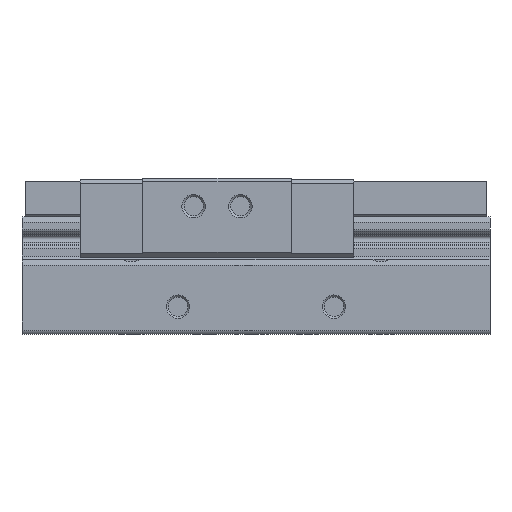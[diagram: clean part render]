
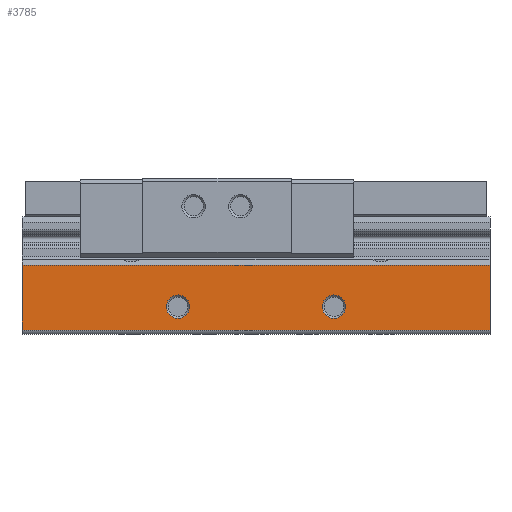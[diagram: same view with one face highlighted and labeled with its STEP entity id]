
A CAD part, left-side view. The second image highlights one B-rep face of the part: STEP entity #3785.
In plain terms, the highlighted planar face has unit normal (-1, 0, 0).
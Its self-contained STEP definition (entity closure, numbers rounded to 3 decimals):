
#143=CIRCLE('',#4110,1.5);
#144=CIRCLE('',#4111,1.5);
#339=ORIENTED_EDGE('',*,*,#1378,.T.);
#340=ORIENTED_EDGE('',*,*,#1379,.T.);
#341=ORIENTED_EDGE('',*,*,#1380,.T.);
#342=ORIENTED_EDGE('',*,*,#1381,.F.);
#343=ORIENTED_EDGE('',*,*,#1382,.F.);
#344=ORIENTED_EDGE('',*,*,#1376,.T.);
#1376=EDGE_CURVE('',#1896,#1895,#2262,.T.);
#1378=EDGE_CURVE('',#1897,#1897,#143,.T.);
#1379=EDGE_CURVE('',#1898,#1898,#144,.T.);
#1380=EDGE_CURVE('',#1895,#1899,#2263,.T.);
#1381=EDGE_CURVE('',#1900,#1899,#2264,.T.);
#1382=EDGE_CURVE('',#1896,#1900,#2265,.T.);
#1895=VERTEX_POINT('',#5795);
#1896=VERTEX_POINT('',#5797);
#1897=VERTEX_POINT('',#5801);
#1898=VERTEX_POINT('',#5803);
#1899=VERTEX_POINT('',#5805);
#1900=VERTEX_POINT('',#5807);
#2262=LINE('',#5796,#2598);
#2263=LINE('',#5804,#2599);
#2264=LINE('',#5806,#2600);
#2265=LINE('',#5808,#2601);
#2598=VECTOR('',#4576,1000.);
#2599=VECTOR('',#4585,1000.);
#2600=VECTOR('',#4586,1000.);
#2601=VECTOR('',#4587,1000.);
#2931=EDGE_LOOP('',(#339));
#2932=EDGE_LOOP('',(#340));
#2933=EDGE_LOOP('',(#341,#342,#343,#344));
#3289=FACE_BOUND('',#2931,.T.);
#3290=FACE_BOUND('',#2932,.T.);
#3291=FACE_BOUND('',#2933,.T.);
#3638=PLANE('',#4109);
#3785=ADVANCED_FACE('',(#3289,#3290,#3291),#3638,.F.);
#4109=AXIS2_PLACEMENT_3D('',#5799,#4579,#4580);
#4110=AXIS2_PLACEMENT_3D('',#5800,#4581,#4582);
#4111=AXIS2_PLACEMENT_3D('',#5802,#4583,#4584);
#4576=DIRECTION('',(0.,-1.,0.));
#4579=DIRECTION('',(1.,0.,0.));
#4580=DIRECTION('',(0.,0.,-1.));
#4581=DIRECTION('',(1.,0.,0.));
#4582=DIRECTION('',(0.,0.,-1.));
#4583=DIRECTION('',(1.,0.,0.));
#4584=DIRECTION('',(0.,0.,-1.));
#4585=DIRECTION('',(0.,0.,1.));
#4586=DIRECTION('',(0.,-1.,0.));
#4587=DIRECTION('',(0.,0.,1.));
#5795=CARTESIAN_POINT('',(-14.,0.,0.5));
#5796=CARTESIAN_POINT('',(-14.,60.,0.5));
#5797=CARTESIAN_POINT('',(-14.,60.,0.5));
#5799=CARTESIAN_POINT('',(-14.,60.,0.5));
#5800=CARTESIAN_POINT('',(-14.,40.,3.5));
#5801=CARTESIAN_POINT('',(-14.,40.,2.));
#5802=CARTESIAN_POINT('',(-14.,20.,3.5));
#5803=CARTESIAN_POINT('',(-14.,20.,2.));
#5804=CARTESIAN_POINT('',(-14.,0.,0.5));
#5805=CARTESIAN_POINT('',(-14.,0.,8.8));
#5806=CARTESIAN_POINT('',(-14.,60.,8.8));
#5807=CARTESIAN_POINT('',(-14.,60.,8.8));
#5808=CARTESIAN_POINT('',(-14.,60.,0.5));
